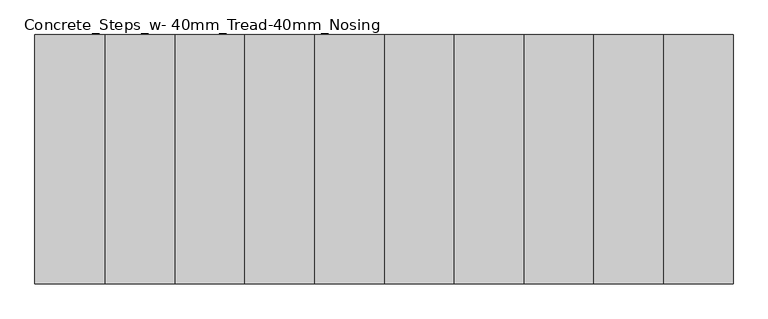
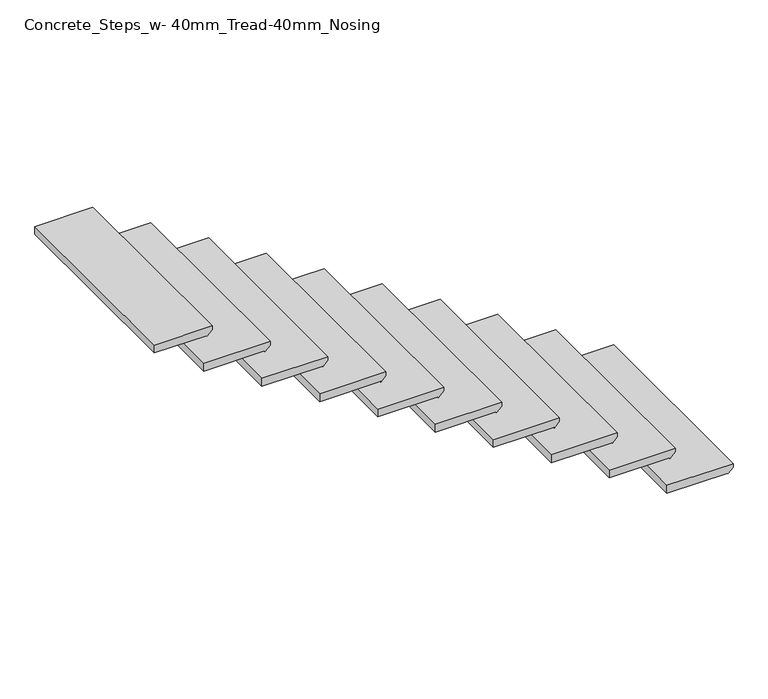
"""IFC4 building model written with IfcOpenShell, lengths in millimetres: stair flight geometry, Concrete_Steps_w- 40mm_Tread-40mm_Nosing."""

from ifc_helpers import new_model, si_unit, frame, origin, place, context, project, spatial, polyline, outline, extrude, source, transform, mapped, element, save


def concrete_steps_w_40mm_tread_40mm_nosing_5f99529d(model_context):
    return source(origin(), model_context, "Body", "SweptSolid", [
        extrude(outline(polyline([(5864.2857143, 38085.7942367), (5864.2857143, 37765.7942367), (5824.2857143, 37765.7942367), (5824.2857143, 38060.3942367), (5819.8357143, 38060.3942367), (5845.2357143, 38085.7942367), (5864.2857143, 38085.7942367)])), frame((0.0, -3247.3476462, 0.0), z_axis=(0.0, 1.0, 0.0), x_axis=(0.0, 0.0, 1.0)), (0.0, 0.0, 1.0), 1000.0),
        extrude(outline(polyline([(6040.4761905, 37805.7942367), (6040.4761905, 37485.7942367), (6000.4761905, 37485.7942367), (6000.4761905, 37780.3942367), (5996.0261905, 37780.3942367), (6021.4261905, 37805.7942367), (6040.4761905, 37805.7942367)])), frame((0.0, -3247.3476462, 0.0), z_axis=(0.0, 1.0, 0.0), x_axis=(0.0, 0.0, 1.0)), (0.0, 0.0, 1.0), 1000.0),
        extrude(outline(polyline([(6216.6666667, 37525.7942367), (6216.6666667, 37205.7942367), (6176.6666667, 37205.7942367), (6176.6666667, 37500.3942367), (6172.2166667, 37500.3942367), (6197.6166667, 37525.7942367), (6216.6666667, 37525.7942367)])), frame((0.0, -3247.3476462, 0.0), z_axis=(0.0, 1.0, 0.0), x_axis=(0.0, 0.0, 1.0)), (0.0, 0.0, 1.0), 1000.0),
        extrude(outline(polyline([(6392.8571429, 37245.7942367), (6392.8571429, 36925.7942367), (6352.8571429, 36925.7942367), (6352.8571429, 37220.3942367), (6348.4071429, 37220.3942367), (6373.8071429, 37245.7942367), (6392.8571429, 37245.7942367)])), frame((0.0, -3247.3476462, 0.0), z_axis=(0.0, 1.0, 0.0), x_axis=(0.0, 0.0, 1.0)), (0.0, 0.0, 1.0), 1000.0),
        extrude(outline(polyline([(6569.047619, 36965.7942367), (6569.047619, 36645.7942367), (6529.047619, 36645.7942367), (6529.047619, 36940.3942367), (6524.597619, 36940.3942367), (6549.997619, 36965.7942367), (6569.047619, 36965.7942367)])), frame((0.0, -3247.3476462, 0.0), z_axis=(0.0, 1.0, 0.0), x_axis=(0.0, 0.0, 1.0)), (0.0, 0.0, 1.0), 1000.0),
        extrude(outline(polyline([(6745.2380952, 36685.7942367), (6745.2380952, 36365.7942367), (6705.2380952, 36365.7942367), (6705.2380952, 36660.3942367), (6700.7880952, 36660.3942367), (6726.1880952, 36685.7942367), (6745.2380952, 36685.7942367)])), frame((0.0, -3247.3476462, 0.0), z_axis=(0.0, 1.0, 0.0), x_axis=(0.0, 0.0, 1.0)), (0.0, 0.0, 1.0), 1000.0),
        extrude(outline(polyline([(6921.4285714, 36405.7942367), (6921.4285714, 36085.7942367), (6881.4285714, 36085.7942367), (6881.4285714, 36380.3942367), (6876.9785714, 36380.3942367), (6902.3785714, 36405.7942367), (6921.4285714, 36405.7942367)])), frame((0.0, -3247.3476462, 0.0), z_axis=(0.0, 1.0, 0.0), x_axis=(0.0, 0.0, 1.0)), (0.0, 0.0, 1.0), 1000.0),
        extrude(outline(polyline([(7097.6190476, 36125.7942367), (7097.6190476, 35805.7942367), (7057.6190476, 35805.7942367), (7057.6190476, 36100.3942367), (7053.1690476, 36100.3942367), (7078.5690476, 36125.7942367), (7097.6190476, 36125.7942367)])), frame((0.0, -3247.3476462, 0.0), z_axis=(0.0, 1.0, 0.0), x_axis=(0.0, 0.0, 1.0)), (0.0, 0.0, 1.0), 1000.0),
        extrude(outline(polyline([(7273.8095238, 35845.7942367), (7273.8095238, 35525.7942367), (7233.8095238, 35525.7942367), (7233.8095238, 35820.3942367), (7229.3595238, 35820.3942367), (7254.7595238, 35845.7942367), (7273.8095238, 35845.7942367)])), frame((0.0, -3247.3476462, 0.0), z_axis=(0.0, 1.0, 0.0), x_axis=(0.0, 0.0, 1.0)), (0.0, 0.0, 1.0), 1000.0),
        extrude(outline(polyline([(7450.0, 35565.7942367), (7450.0, 35285.7942367), (7410.0, 35285.7942367), (7410.0, 35540.3942367), (7405.55, 35540.3942367), (7430.95, 35565.7942367), (7450.0, 35565.7942367)])), frame((0.0, -3247.3476462, 0.0), z_axis=(0.0, 1.0, 0.0), x_axis=(0.0, 0.0, 1.0)), (0.0, 0.0, 1.0), 1000.0),
    ])


if __name__ == "__main__":
    model = new_model("IFC4")
    model_context = context("Model", 3, world=origin())
    ifc_project = project(units=[si_unit("LENGTHUNIT", "METRE", prefix="MILLI")], contexts=[model_context])
    site = spatial("IfcSite", under=ifc_project)
    building = spatial("IfcBuilding", under=site)
    placement = place(None, origin())
    concrete_steps_w_40mm_tread_40mm_nosing_shape = concrete_steps_w_40mm_tread_40mm_nosing_5f99529d(model_context)
    element("IfcStairFlight", 1, ObjectType="Concrete_Steps_w- 40mm_Tread-40mm_Nosing", at=placement, inside=building, context=model_context, shape_type="MappedRepresentation", body=[
        mapped(concrete_steps_w_40mm_tread_40mm_nosing_shape, transform((0.0, 0.0, 0.0), x_axis=(1.0, 0.0, 0.0), y_axis=(0.0, 1.0, 0.0), z_axis=(0.0, 0.0, 1.0))),
    ])
    save(model, "model.ifc")
